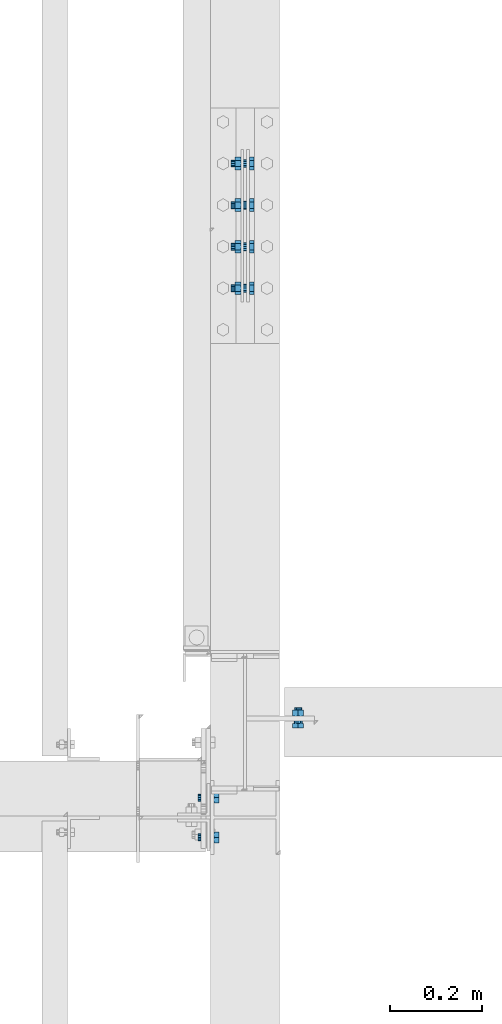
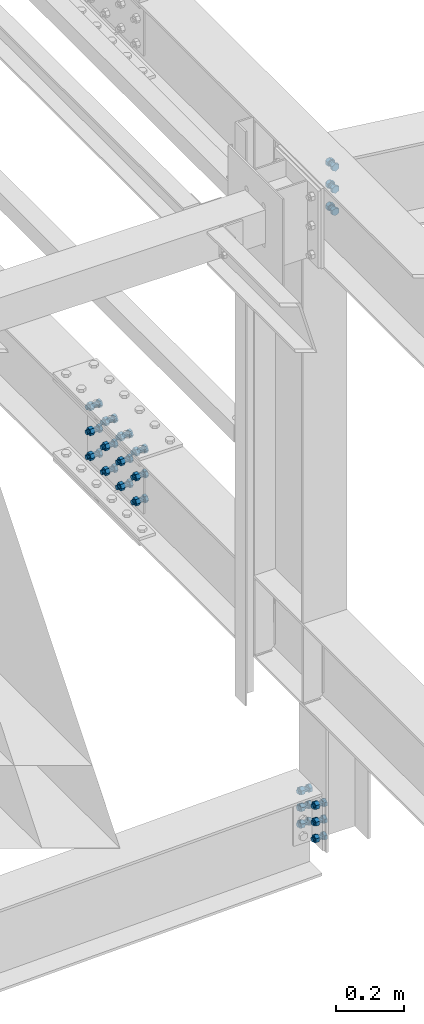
# One storey, part 98 of 3134: 5 mechanical fasteners, 5 elements without a shape of their own.
"""IFC2X3 building model written with IfcOpenShell, lengths in millimetres."""

from ifc_helpers import new_model, si_unit, frame, origin_with_axes, place, context, subcontext, project, spatial, faceted_brep, source, transform, mapped, material, type_object, element, aggregate, save


model = new_model("IFC2X3")

# Units and contexts
model_context = context("Model", 3, precision=1e-05, world=origin_with_axes())
body_context = subcontext(model_context, "Body", "Model", "MODEL_VIEW")
ifc_project = project(units=[si_unit("LENGTHUNIT", "METRE", prefix="MILLI"), si_unit("AREAUNIT", "SQUARE_METRE"), si_unit("VOLUMEUNIT", "CUBIC_METRE"), si_unit("MASSUNIT", "GRAM", prefix="KILO"), si_unit("TIMEUNIT", "SECOND"), si_unit("PLANEANGLEUNIT", "RADIAN"), si_unit("SOLIDANGLEUNIT", "STERADIAN"), si_unit("THERMODYNAMICTEMPERATUREUNIT", "DEGREE_CELSIUS"), si_unit("LUMINOUSINTENSITYUNIT", "LUMEN")], contexts=[model_context])

# Site, building, storey
site_placement = place(None, origin_with_axes())
site = spatial("IfcSite", under=ifc_project, at=site_placement, CompositionType="ELEMENT")
building_placement = place(site_placement, origin_with_axes())
building = spatial("IfcBuilding", under=site, at=building_placement, Name="Undefined", CompositionType="ELEMENT")
storey_placement = place(building_placement, origin_with_axes())
storey = spatial("IfcBuildingStorey", under=building, at=storey_placement, Name="Undefined", CompositionType="ELEMENT", Elevation=0.0)

# Assembly, mechanical fastener
assembly_1_placement = place(storey_placement, origin_with_axes())
assembly_1 = element("IfcElementAssembly", 1, at=assembly_1_placement, inside=storey, Name="300", AssemblyPlace="NOTDEFINED", PredefinedType="RIGID_FRAME")
ifc_material = material(Name="8.8")
mechanical_fastener_type = type_object("IfcMechanicalFastenerType", Name="Bolt assembly")
shared_shape_1 = source(origin_with_axes(), body_context, "Body", "Brep", [
    faceted_brep([(13.856406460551, -13.0499999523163, 0.0), (6.92820323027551, -13.0499999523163, 12.0), (-6.92820323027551, -13.0499999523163, 12.0), (-13.856406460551, -13.0499999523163, 1.69692038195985e-15), (-6.92820323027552, -13.0499999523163, -12.0), (6.9282032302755, -13.0499999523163, -12.0), (6.9282032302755, -3.04999995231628, -12.0), (-6.92820323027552, -3.04999995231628, -12.0), (-13.856406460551, -3.04999995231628, 1.69692038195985e-15), (-6.92820323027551, -3.04999995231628, 12.0), (6.92820323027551, -3.04999995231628, 12.0), (13.856406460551, -3.04999995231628, 0.0), (8.0, -3.04999995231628, 0.0), (6.92820323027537, -3.04999995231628, 4.00000000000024), (3.99999999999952, -3.04999995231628, 6.92820323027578), (-8.29068785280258e-13, -3.04999995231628, 8.0), (-4.00000000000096, -3.04999995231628, 6.92820323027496), (-6.9282032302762, -3.04999995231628, 3.99999999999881), (-8.0, -3.04999995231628, -1.65813757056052e-12), (-6.92820323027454, -3.04999995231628, -4.00000000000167), (-3.99999999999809, -3.04999995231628, -6.92820323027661), (2.47832457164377e-12, -3.04999995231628, -8.0), (4.00000000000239, -3.04999995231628, -6.92820323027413), (6.92820323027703, -3.04999995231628, -3.99999999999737), (6.92820323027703, 31.9500000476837, -3.99999999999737), (4.00000000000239, 31.9500000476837, -6.92820323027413), (2.47832457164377e-12, 31.9500000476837, -8.0), (-3.99999999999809, 31.9500000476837, -6.92820323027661), (-6.92820323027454, 31.9500000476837, -4.00000000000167), (-8.0, 31.9500000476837, -1.65813757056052e-12), (-6.9282032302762, 31.9500000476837, 3.99999999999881), (-4.00000000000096, 31.9500000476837, 6.92820323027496), (-8.29068785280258e-13, 31.9500000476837, 8.0), (3.99999999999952, 31.9500000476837, 6.92820323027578), (6.92820323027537, 31.9500000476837, 4.00000000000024), (8.0, 31.9500000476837, 0.0), (13.856406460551, 13.0500000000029, 0.0), (6.92820323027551, 13.0500000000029, 12.0), (-6.92820323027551, 13.0500000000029, 12.0), (-13.856406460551, 13.0500000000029, 1.69692038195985e-15), (-6.92820323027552, 13.0500000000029, -12.0), (6.9282032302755, 13.0500000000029, -12.0), (6.9282032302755, 26.0500000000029, -12.0), (-6.92820323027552, 26.0500000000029, -12.0), (-13.856406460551, 26.0500000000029, 1.69692038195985e-15), (-6.92820323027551, 26.0500000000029, 12.0), (6.92820323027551, 26.0500000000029, 12.0), (13.856406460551, 26.0500000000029, 0.0)], [[[0, 1, 2, 3, 4, 5]], [[6, 7, 8, 9, 10, 11]], [[0, 11, 10, 1]], [[1, 10, 9, 2]], [[2, 9, 8, 3]], [[3, 8, 7, 4]], [[4, 7, 6, 5]], [[5, 6, 11, 0]], [[12, 13, 14, 15, 16, 17, 18, 19, 20, 21, 22, 23]], [[24, 25, 26, 27, 28, 29, 30, 31, 32, 33, 34, 35]], [[12, 35, 34, 13]], [[13, 34, 33, 14]], [[14, 33, 32, 15]], [[15, 32, 31, 16]], [[16, 31, 30, 17]], [[17, 30, 29, 18]], [[18, 29, 28, 19]], [[19, 28, 27, 20]], [[20, 27, 26, 21]], [[21, 26, 25, 22]], [[22, 25, 24, 23]], [[23, 24, 35, 12]], [[36, 37, 38, 39, 40, 41]], [[42, 43, 44, 45, 46, 47]], [[36, 47, 46, 37]], [[37, 46, 45, 38]], [[38, 45, 44, 39]], [[39, 44, 43, 40]], [[40, 43, 42, 41]], [[41, 42, 47, 36]]]),
    faceted_brep([(9.0, 2.95000000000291, 0.0), (7.79422863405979, 2.95000000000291, 4.50000000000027), (4.49999999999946, 2.95000000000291, 7.79422863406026), (-9.3270238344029e-13, 2.95000000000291, 9.0), (-4.50000000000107, 2.95000000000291, 7.79422863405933), (-7.79422863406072, 2.95000000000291, 4.49999999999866), (-9.0, 2.95000000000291, -1.86540476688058e-12), (-7.79422863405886, 2.95000000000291, -4.50000000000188), (-4.49999999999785, 2.95000000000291, -7.79422863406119), (2.78811514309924e-12, 2.95000000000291, -9.0), (4.50000000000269, 2.95000000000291, -7.7942286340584), (7.79422863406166, 2.95000000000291, -4.49999999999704), (7.79422863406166, 13.0500000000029, -4.49999999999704), (4.50000000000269, 13.0500000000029, -7.7942286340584), (2.78811514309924e-12, 13.0500000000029, -9.0), (-4.49999999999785, 13.0500000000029, -7.79422863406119), (-7.79422863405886, 13.0500000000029, -4.50000000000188), (-9.0, 13.0500000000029, -1.86540476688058e-12), (-7.79422863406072, 13.0500000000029, 4.49999999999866), (-4.50000000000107, 13.0500000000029, 7.79422863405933), (-9.3270238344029e-13, 13.0500000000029, 9.0), (4.49999999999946, 13.0500000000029, 7.79422863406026), (7.79422863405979, 13.0500000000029, 4.50000000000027), (9.0, 13.0500000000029, 0.0), (9.0, -2.94999995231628, 0.0), (7.79422863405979, -2.94999995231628, 4.50000000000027), (4.49999999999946, -2.94999995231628, 7.79422863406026), (-9.3270238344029e-13, -2.94999995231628, 9.0), (-4.50000000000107, -2.94999995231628, 7.79422863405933), (-7.79422863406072, -2.94999995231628, 4.49999999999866), (-9.0, -2.94999995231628, -1.86540476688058e-12), (-7.79422863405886, -2.94999995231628, -4.50000000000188), (-4.49999999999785, -2.94999995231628, -7.79422863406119), (2.78811514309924e-12, -2.94999995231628, -9.0), (4.50000000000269, -2.94999995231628, -7.7942286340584), (7.79422863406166, -2.94999995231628, -4.49999999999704), (7.79422863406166, 3.14999995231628, -4.49999999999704), (4.50000000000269, 3.14999995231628, -7.7942286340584), (2.78811514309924e-12, 3.14999995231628, -9.0), (-4.49999999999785, 3.14999995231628, -7.79422863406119), (-7.79422863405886, 3.14999995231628, -4.50000000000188), (-9.0, 3.14999995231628, -1.86540476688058e-12), (-7.79422863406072, 3.14999995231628, 4.49999999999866), (-4.50000000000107, 3.14999995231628, 7.79422863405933), (-9.3270238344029e-13, 3.14999995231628, 9.0), (4.49999999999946, 3.14999995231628, 7.79422863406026), (7.79422863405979, 3.14999995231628, 4.50000000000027), (9.0, 3.14999995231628, 0.0)], [[[0, 1, 2, 3, 4, 5, 6, 7, 8, 9, 10, 11]], [[12, 13, 14, 15, 16, 17, 18, 19, 20, 21, 22, 23]], [[0, 23, 22, 1]], [[1, 22, 21, 2]], [[2, 21, 20, 3]], [[3, 20, 19, 4]], [[4, 19, 18, 5]], [[5, 18, 17, 6]], [[6, 17, 16, 7]], [[7, 16, 15, 8]], [[8, 15, 14, 9]], [[9, 14, 13, 10]], [[10, 13, 12, 11]], [[11, 12, 23, 0]], [[24, 25, 26, 27, 28, 29, 30, 31, 32, 33, 34, 35]], [[36, 37, 38, 39, 40, 41, 42, 43, 44, 45, 46, 47]], [[24, 47, 46, 25]], [[25, 46, 45, 26]], [[26, 45, 44, 27]], [[27, 44, 43, 28]], [[28, 43, 42, 29]], [[29, 42, 41, 30]], [[30, 41, 40, 31]], [[31, 40, 39, 32]], [[32, 39, 38, 33]], [[33, 38, 37, 34]], [[34, 37, 36, 35]], [[35, 36, 47, 24]]]),
])
mechanical_fastener_1_placement = place(assembly_1_placement, frame((20965.0, 27250.0, 5735.35014950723), z_axis=(1.0, 0.0, 0.0), x_axis=(0.0, 0.0, -1.0)))
mechanical_fastener_1 = element("IfcMechanicalFastener", 2, at=mechanical_fastener_1_placement, type_object=mechanical_fastener_type, material=ifc_material, Name="Bolt assembly", NominalDiameter=16.0, NominalLength=35.0, context=body_context, shape_type="MappedRepresentation", body=[
    mapped(shared_shape_1, transform((0.0, 0.0, 0.0))),
    mapped(shared_shape_1, transform((80.0, 0.0, 0.0))),
    mapped(shared_shape_1, transform((160.0, 0.0, 0.0))),
])
aggregate(assembly_1, [mechanical_fastener_1])

assembly_2_placement = place(storey_placement, origin_with_axes())
assembly_2 = element("IfcElementAssembly", 3, at=assembly_2_placement, inside=storey, AssemblyPlace="NOTDEFINED", PredefinedType="RIGID_FRAME")
shared_shape_2 = source(origin_with_axes(), body_context, "Body", "Brep", [
    faceted_brep([(13.856406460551, -19.0, 0.0), (6.92820323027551, -19.0, 12.0), (-6.92820323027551, -19.0, 12.0), (-13.856406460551, -19.0, 1.69692038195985e-15), (-6.92820323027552, -19.0, -12.0), (6.9282032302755, -19.0, -12.0), (6.9282032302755, -9.0, -12.0), (-6.92820323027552, -9.0, -12.0), (-13.856406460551, -9.0, 1.69692038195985e-15), (-6.92820323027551, -9.0, 12.0), (6.92820323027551, -9.0, 12.0), (13.856406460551, -9.0, 0.0), (8.0, -9.0, 0.0), (6.92820323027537, -9.0, 4.00000000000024), (3.99999999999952, -9.0, 6.92820323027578), (-8.29068785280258e-13, -9.0, 8.0), (-4.00000000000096, -9.0, 6.92820323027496), (-6.9282032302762, -9.0, 3.99999999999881), (-8.0, -9.0, -1.65813757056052e-12), (-6.92820323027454, -9.0, -4.00000000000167), (-3.99999999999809, -9.0, -6.92820323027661), (2.47832457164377e-12, -9.0, -8.0), (4.00000000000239, -9.0, -6.92820323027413), (6.92820323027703, -9.0, -3.99999999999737), (6.92820323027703, 26.0, -3.99999999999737), (4.00000000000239, 26.0, -6.92820323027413), (2.47832457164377e-12, 26.0, -8.0), (-3.99999999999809, 26.0, -6.92820323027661), (-6.92820323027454, 26.0, -4.00000000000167), (-8.0, 26.0, -1.65813757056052e-12), (-6.9282032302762, 26.0, 3.99999999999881), (-4.00000000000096, 26.0, 6.92820323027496), (-8.29068785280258e-13, 26.0, 8.0), (3.99999999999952, 26.0, 6.92820323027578), (6.92820323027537, 26.0, 4.00000000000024), (8.0, 26.0, 0.0), (13.856406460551, 7.0, 0.0), (6.92820323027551, 7.0, 12.0), (-6.92820323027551, 7.0, 12.0), (-13.856406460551, 7.0, 1.69692038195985e-15), (-6.92820323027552, 7.0, -12.0), (6.9282032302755, 7.0, -12.0), (6.9282032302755, 20.0, -12.0), (-6.92820323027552, 20.0, -12.0), (-13.856406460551, 20.0, 1.69692038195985e-15), (-6.92820323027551, 20.0, 12.0), (6.92820323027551, 20.0, 12.0), (13.856406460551, 20.0, 0.0)], [[[0, 1, 2, 3, 4, 5]], [[6, 7, 8, 9, 10, 11]], [[0, 11, 10, 1]], [[1, 10, 9, 2]], [[2, 9, 8, 3]], [[3, 8, 7, 4]], [[4, 7, 6, 5]], [[5, 6, 11, 0]], [[12, 13, 14, 15, 16, 17, 18, 19, 20, 21, 22, 23]], [[24, 25, 26, 27, 28, 29, 30, 31, 32, 33, 34, 35]], [[12, 35, 34, 13]], [[13, 34, 33, 14]], [[14, 33, 32, 15]], [[15, 32, 31, 16]], [[16, 31, 30, 17]], [[17, 30, 29, 18]], [[18, 29, 28, 19]], [[19, 28, 27, 20]], [[20, 27, 26, 21]], [[21, 26, 25, 22]], [[22, 25, 24, 23]], [[23, 24, 35, 12]], [[36, 37, 38, 39, 40, 41]], [[42, 43, 44, 45, 46, 47]], [[36, 47, 46, 37]], [[37, 46, 45, 38]], [[38, 45, 44, 39]], [[39, 44, 43, 40]], [[40, 43, 42, 41]], [[41, 42, 47, 36]]]),
    faceted_brep([(9.0, -8.9, 0.0), (7.79422863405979, -8.9, 4.50000000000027), (4.49999999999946, -8.9, 7.79422863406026), (-9.3270238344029e-13, -8.9, 9.0), (-4.50000000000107, -8.9, 7.79422863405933), (-7.79422863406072, -8.9, 4.49999999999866), (-9.0, -8.9, -1.86540476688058e-12), (-7.79422863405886, -8.9, -4.50000000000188), (-4.49999999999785, -8.9, -7.79422863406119), (2.78811514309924e-12, -8.9, -9.0), (4.50000000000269, -8.9, -7.7942286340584), (7.79422863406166, -8.9, -4.49999999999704), (7.79422863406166, 0.100000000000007, -4.49999999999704), (4.50000000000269, 0.100000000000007, -7.7942286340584), (2.78811514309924e-12, 0.100000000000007, -9.0), (-4.49999999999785, 0.100000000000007, -7.79422863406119), (-7.79422863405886, 0.100000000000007, -4.50000000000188), (-9.0, 0.100000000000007, -1.86540476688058e-12), (-7.79422863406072, 0.100000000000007, 4.49999999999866), (-4.50000000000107, 0.100000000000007, 7.79422863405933), (-9.3270238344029e-13, 0.100000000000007, 9.0), (4.49999999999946, 0.100000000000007, 7.79422863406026), (7.79422863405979, 0.100000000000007, 4.50000000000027), (9.0, 0.100000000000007, 0.0), (9.0, -0.1, 0.0), (7.79422863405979, -0.1, 4.50000000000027), (4.49999999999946, -0.1, 7.79422863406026), (-9.3270238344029e-13, -0.1, 9.0), (-4.50000000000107, -0.1, 7.79422863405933), (-7.79422863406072, -0.1, 4.49999999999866), (-9.0, -0.1, -1.86540476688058e-12), (-7.79422863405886, -0.1, -4.50000000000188), (-4.49999999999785, -0.1, -7.79422863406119), (2.78811514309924e-12, -0.1, -9.0), (4.50000000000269, -0.1, -7.7942286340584), (7.79422863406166, -0.1, -4.49999999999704), (7.79422863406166, 7.0, -4.49999999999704), (4.50000000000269, 7.0, -7.7942286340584), (2.78811514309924e-12, 7.0, -9.0), (-4.49999999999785, 7.0, -7.79422863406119), (-7.79422863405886, 7.0, -4.50000000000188), (-9.0, 7.0, -1.86540476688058e-12), (-7.79422863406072, 7.0, 4.49999999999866), (-4.50000000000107, 7.0, 7.79422863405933), (-9.3270238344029e-13, 7.0, 9.0), (4.49999999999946, 7.0, 7.79422863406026), (7.79422863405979, 7.0, 4.50000000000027), (9.0, 7.0, 0.0)], [[[0, 1, 2, 3, 4, 5, 6, 7, 8, 9, 10, 11]], [[12, 13, 14, 15, 16, 17, 18, 19, 20, 21, 22, 23]], [[0, 23, 22, 1]], [[1, 22, 21, 2]], [[2, 21, 20, 3]], [[3, 20, 19, 4]], [[4, 19, 18, 5]], [[5, 18, 17, 6]], [[6, 17, 16, 7]], [[7, 16, 15, 8]], [[8, 15, 14, 9]], [[9, 14, 13, 10]], [[10, 13, 12, 11]], [[11, 12, 23, 0]], [[24, 25, 26, 27, 28, 29, 30, 31, 32, 33, 34, 35]], [[36, 37, 38, 39, 40, 41, 42, 43, 44, 45, 46, 47]], [[24, 47, 46, 25]], [[25, 46, 45, 26]], [[26, 45, 44, 27]], [[27, 44, 43, 28]], [[28, 43, 42, 29]], [[29, 42, 41, 30]], [[30, 41, 40, 31]], [[31, 40, 39, 32]], [[32, 39, 38, 33]], [[33, 38, 37, 34]], [[34, 37, 36, 35]], [[35, 36, 47, 24]]]),
])
mechanical_fastener_2_placement = place(assembly_2_placement, frame((20774.0000000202, 27086.79, 3648.83272487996), z_axis=(0.0, 1.0, 0.0), x_axis=(0.0, 0.0, -1.0)))
mechanical_fastener_2 = element("IfcMechanicalFastener", 4, at=mechanical_fastener_2_placement, type_object=mechanical_fastener_type, material=ifc_material, Name="Bolt assembly", NominalDiameter=16.0, NominalLength=35.0, context=body_context, shape_type="MappedRepresentation", body=[
    mapped(shared_shape_2, transform((0.0, 0.0, 0.0))),
    mapped(shared_shape_2, transform((59.9999999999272, 0.0, 5.40239852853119e-10))),
    mapped(shared_shape_2, transform((120.0, 0.0, 0.0))),
])
aggregate(assembly_2, [mechanical_fastener_2])

assembly_3_placement = place(storey_placement, origin_with_axes())
assembly_3 = element("IfcElementAssembly", 5, at=assembly_3_placement, inside=storey, AssemblyPlace="NOTDEFINED", PredefinedType="RIGID_FRAME")
mechanical_fastener_3_placement = place(assembly_3_placement, frame((20774.0000000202, 27000.71, 3648.83272487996), z_axis=(0.0, 1.0, 0.0), x_axis=(0.0, 0.0, -1.0)))
mechanical_fastener_3 = element("IfcMechanicalFastener", 6, at=mechanical_fastener_3_placement, type_object=mechanical_fastener_type, material=ifc_material, Name="Bolt assembly", NominalDiameter=16.0, NominalLength=35.0, context=body_context, shape_type="MappedRepresentation", body=[
    mapped(shared_shape_2, transform((0.0, 0.0, 0.0))),
    mapped(shared_shape_2, transform((59.9999999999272, 0.0, 5.40239852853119e-10))),
    mapped(shared_shape_2, transform((120.0, 0.0, 0.0))),
])
aggregate(assembly_3, [mechanical_fastener_3])

assembly_4_placement = place(storey_placement, origin_with_axes())
assembly_4 = element("IfcElementAssembly", 7, at=assembly_4_placement, inside=storey, Name="300", AssemblyPlace="NOTDEFINED", PredefinedType="RIGID_FRAME")
shared_shape_3 = source(origin_with_axes(), body_context, "Body", "Brep", [
    faceted_brep([(13.856406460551, -19.0499999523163, 0.0), (6.92820323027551, -19.0499999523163, 12.0), (-6.92820323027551, -19.0499999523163, 12.0), (-13.856406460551, -19.0499999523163, 1.69692038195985e-15), (-6.92820323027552, -19.0499999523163, -12.0), (6.9282032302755, -19.0499999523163, -12.0), (6.9282032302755, -9.04999995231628, -12.0), (-6.92820323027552, -9.04999995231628, -12.0), (-13.856406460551, -9.04999995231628, 1.69692038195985e-15), (-6.92820323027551, -9.04999995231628, 12.0), (6.92820323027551, -9.04999995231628, 12.0), (13.856406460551, -9.04999995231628, 0.0), (8.0, -9.04999995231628, 0.0), (6.92820323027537, -9.04999995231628, 4.00000000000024), (3.99999999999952, -9.04999995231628, 6.92820323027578), (-8.29068785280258e-13, -9.04999995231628, 8.0), (-4.00000000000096, -9.04999995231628, 6.92820323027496), (-6.9282032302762, -9.04999995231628, 3.99999999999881), (-8.0, -9.04999995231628, -1.65813757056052e-12), (-6.92820323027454, -9.04999995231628, -4.00000000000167), (-3.99999999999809, -9.04999995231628, -6.92820323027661), (2.47832457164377e-12, -9.04999995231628, -8.0), (4.00000000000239, -9.04999995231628, -6.92820323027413), (6.92820323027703, -9.04999995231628, -3.99999999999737), (6.92820323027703, 30.9500000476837, -3.99999999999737), (4.00000000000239, 30.9500000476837, -6.92820323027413), (2.47832457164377e-12, 30.9500000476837, -8.0), (-3.99999999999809, 30.9500000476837, -6.92820323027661), (-6.92820323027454, 30.9500000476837, -4.00000000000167), (-8.0, 30.9500000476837, -1.65813757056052e-12), (-6.9282032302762, 30.9500000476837, 3.99999999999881), (-4.00000000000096, 30.9500000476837, 6.92820323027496), (-8.29068785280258e-13, 30.9500000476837, 8.0), (3.99999999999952, 30.9500000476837, 6.92820323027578), (6.92820323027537, 30.9500000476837, 4.00000000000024), (8.0, 30.9500000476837, 0.0), (13.856406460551, 9.04999995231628, 0.0), (6.92820323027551, 9.04999995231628, 12.0), (-6.92820323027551, 9.04999995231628, 12.0), (-13.856406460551, 9.04999995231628, 1.69692038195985e-15), (-6.92820323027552, 9.04999995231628, -12.0), (6.9282032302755, 9.04999995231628, -12.0), (6.9282032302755, 22.0499999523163, -12.0), (-6.92820323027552, 22.0499999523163, -12.0), (-13.856406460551, 22.0499999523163, 1.69692038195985e-15), (-6.92820323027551, 22.0499999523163, 12.0), (6.92820323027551, 22.0499999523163, 12.0), (13.856406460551, 22.0499999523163, 0.0)], [[[0, 1, 2, 3, 4, 5]], [[6, 7, 8, 9, 10, 11]], [[0, 11, 10, 1]], [[1, 10, 9, 2]], [[2, 9, 8, 3]], [[3, 8, 7, 4]], [[4, 7, 6, 5]], [[5, 6, 11, 0]], [[12, 13, 14, 15, 16, 17, 18, 19, 20, 21, 22, 23]], [[24, 25, 26, 27, 28, 29, 30, 31, 32, 33, 34, 35]], [[12, 35, 34, 13]], [[13, 34, 33, 14]], [[14, 33, 32, 15]], [[15, 32, 31, 16]], [[16, 31, 30, 17]], [[17, 30, 29, 18]], [[18, 29, 28, 19]], [[19, 28, 27, 20]], [[20, 27, 26, 21]], [[21, 26, 25, 22]], [[22, 25, 24, 23]], [[23, 24, 35, 12]], [[36, 37, 38, 39, 40, 41]], [[42, 43, 44, 45, 46, 47]], [[36, 47, 46, 37]], [[37, 46, 45, 38]], [[38, 45, 44, 39]], [[39, 44, 43, 40]], [[40, 43, 42, 41]], [[41, 42, 47, 36]]]),
    faceted_brep([(9.0, -8.94999995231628, 0.0), (7.79422863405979, -8.94999995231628, 4.50000000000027), (4.49999999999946, -8.94999995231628, 7.79422863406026), (-9.3270238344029e-13, -8.94999995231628, 9.0), (-4.50000000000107, -8.94999995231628, 7.79422863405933), (-7.79422863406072, -8.94999995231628, 4.49999999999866), (-9.0, -8.94999995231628, -1.86540476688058e-12), (-7.79422863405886, -8.94999995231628, -4.50000000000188), (-4.49999999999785, -8.94999995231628, -7.79422863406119), (2.78811514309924e-12, -8.94999995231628, -9.0), (4.50000000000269, -8.94999995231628, -7.7942286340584), (7.79422863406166, -8.94999995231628, -4.49999999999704), (7.79422863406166, -2.94999995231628, -4.49999999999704), (4.50000000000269, -2.94999995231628, -7.7942286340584), (2.78811514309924e-12, -2.94999995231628, -9.0), (-4.49999999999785, -2.94999995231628, -7.79422863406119), (-7.79422863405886, -2.94999995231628, -4.50000000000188), (-9.0, -2.94999995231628, -1.86540476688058e-12), (-7.79422863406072, -2.94999995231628, 4.49999999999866), (-4.50000000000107, -2.94999995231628, 7.79422863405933), (-9.3270238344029e-13, -2.94999995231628, 9.0), (4.49999999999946, -2.94999995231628, 7.79422863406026), (7.79422863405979, -2.94999995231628, 4.50000000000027), (9.0, -2.94999995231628, 0.0), (9.0, -3.04999995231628, 0.0), (7.79422863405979, -3.04999995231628, 4.50000000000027), (4.49999999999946, -3.04999995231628, 7.79422863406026), (-9.3270238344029e-13, -3.04999995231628, 9.0), (-4.50000000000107, -3.04999995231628, 7.79422863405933), (-7.79422863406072, -3.04999995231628, 4.49999999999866), (-9.0, -3.04999995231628, -1.86540476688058e-12), (-7.79422863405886, -3.04999995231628, -4.50000000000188), (-4.49999999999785, -3.04999995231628, -7.79422863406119), (2.78811514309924e-12, -3.04999995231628, -9.0), (4.50000000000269, -3.04999995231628, -7.7942286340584), (7.79422863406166, -3.04999995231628, -4.49999999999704), (7.79422863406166, 3.04999995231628, -4.49999999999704), (4.50000000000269, 3.04999995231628, -7.7942286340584), (2.78811514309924e-12, 3.04999995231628, -9.0), (-4.49999999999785, 3.04999995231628, -7.79422863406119), (-7.79422863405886, 3.04999995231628, -4.50000000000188), (-9.0, 3.04999995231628, -1.86540476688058e-12), (-7.79422863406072, 3.04999995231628, 4.49999999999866), (-4.50000000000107, 3.04999995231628, 7.79422863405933), (-9.3270238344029e-13, 3.04999995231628, 9.0), (4.49999999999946, 3.04999995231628, 7.79422863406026), (7.79422863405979, 3.04999995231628, 4.50000000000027), (9.0, 3.04999995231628, 0.0), (9.0, 2.95000000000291, 0.0), (7.79422863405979, 2.95000000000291, 4.50000000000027), (4.49999999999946, 2.95000000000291, 7.79422863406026), (-9.3270238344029e-13, 2.95000000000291, 9.0), (-4.50000000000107, 2.95000000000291, 7.79422863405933), (-7.79422863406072, 2.95000000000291, 4.49999999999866), (-9.0, 2.95000000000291, -1.86540476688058e-12), (-7.79422863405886, 2.95000000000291, -4.50000000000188), (-4.49999999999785, 2.95000000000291, -7.79422863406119), (2.78811514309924e-12, 2.95000000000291, -9.0), (4.50000000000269, 2.95000000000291, -7.7942286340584), (7.79422863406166, 2.95000000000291, -4.49999999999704), (7.79422863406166, 9.04999995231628, -4.49999999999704), (4.50000000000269, 9.04999995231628, -7.7942286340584), (2.78811514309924e-12, 9.04999995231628, -9.0), (-4.49999999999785, 9.04999995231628, -7.79422863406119), (-7.79422863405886, 9.04999995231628, -4.50000000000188), (-9.0, 9.04999995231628, -1.86540476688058e-12), (-7.79422863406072, 9.04999995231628, 4.49999999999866), (-4.50000000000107, 9.04999995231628, 7.79422863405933), (-9.3270238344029e-13, 9.04999995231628, 9.0), (4.49999999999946, 9.04999995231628, 7.79422863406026), (7.79422863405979, 9.04999995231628, 4.50000000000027), (9.0, 9.04999995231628, 0.0)], [[[0, 1, 2, 3, 4, 5, 6, 7, 8, 9, 10, 11]], [[12, 13, 14, 15, 16, 17, 18, 19, 20, 21, 22, 23]], [[0, 23, 22, 1]], [[1, 22, 21, 2]], [[2, 21, 20, 3]], [[3, 20, 19, 4]], [[4, 19, 18, 5]], [[5, 18, 17, 6]], [[6, 17, 16, 7]], [[7, 16, 15, 8]], [[8, 15, 14, 9]], [[9, 14, 13, 10]], [[10, 13, 12, 11]], [[11, 12, 23, 0]], [[24, 25, 26, 27, 28, 29, 30, 31, 32, 33, 34, 35]], [[36, 37, 38, 39, 40, 41, 42, 43, 44, 45, 46, 47]], [[24, 47, 46, 25]], [[25, 46, 45, 26]], [[26, 45, 44, 27]], [[27, 44, 43, 28]], [[28, 43, 42, 29]], [[29, 42, 41, 30]], [[30, 41, 40, 31]], [[31, 40, 39, 32]], [[32, 39, 38, 33]], [[33, 38, 37, 34]], [[34, 37, 36, 35]], [[35, 36, 47, 24]], [[48, 49, 50, 51, 52, 53, 54, 55, 56, 57, 58, 59]], [[60, 61, 62, 63, 64, 65, 66, 67, 68, 69, 70, 71]], [[48, 71, 70, 49]], [[49, 70, 69, 50]], [[50, 69, 68, 51]], [[51, 68, 67, 52]], [[52, 67, 66, 53]], [[53, 66, 65, 54]], [[54, 65, 64, 55]], [[55, 64, 63, 56]], [[56, 63, 62, 57]], [[57, 62, 61, 58]], [[58, 61, 60, 59]], [[59, 60, 71, 48]]]),
])
mechanical_fastener_4_placement = place(assembly_4_placement, frame((20850.0, 28189.9, 4088.5), z_axis=(0.0, 0.0, 1.0), x_axis=(0.0, 1.0, 0.0)))
mechanical_fastener_4 = element("IfcMechanicalFastener", 8, at=mechanical_fastener_4_placement, type_object=mechanical_fastener_type, material=ifc_material, Name="Bolt assembly", NominalDiameter=16.0, NominalLength=40.0, context=body_context, shape_type="MappedRepresentation", body=[
    mapped(shared_shape_3, transform((0.0, 0.0, -90.0))),
    mapped(shared_shape_3, transform((90.0, 0.0, -90.0))),
    mapped(shared_shape_3, transform((0.0, 0.0, 0.0))),
    mapped(shared_shape_3, transform((90.0, 0.0, 0.0))),
    mapped(shared_shape_3, transform((0.0, 0.0, 90.0))),
    mapped(shared_shape_3, transform((90.0, 0.0, 90.0))),
])
aggregate(assembly_4, [mechanical_fastener_4])

assembly_5_placement = place(storey_placement, origin_with_axes())
assembly_5 = element("IfcElementAssembly", 9, at=assembly_5_placement, inside=storey, Name="300", AssemblyPlace="NOTDEFINED", PredefinedType="RIGID_FRAME")
mechanical_fastener_5_placement = place(assembly_5_placement, frame((20850.0, 28369.9, 4088.5), z_axis=(0.0, 0.0, 1.0), x_axis=(0.0, 1.0, 0.0)))
mechanical_fastener_5 = element("IfcMechanicalFastener", 10, at=mechanical_fastener_5_placement, type_object=mechanical_fastener_type, material=ifc_material, Name="Bolt assembly", NominalDiameter=16.0, NominalLength=40.0, context=body_context, shape_type="MappedRepresentation", body=[
    mapped(shared_shape_3, transform((0.0, 0.0, -90.0))),
    mapped(shared_shape_3, transform((90.0, 0.0, -90.0))),
    mapped(shared_shape_3, transform((0.0, 0.0, 0.0))),
    mapped(shared_shape_3, transform((90.0, 0.0, 0.0))),
    mapped(shared_shape_3, transform((0.0, 0.0, 90.0))),
    mapped(shared_shape_3, transform((90.0, 0.0, 90.0))),
])
aggregate(assembly_5, [mechanical_fastener_5])

save(model, "model.ifc")
